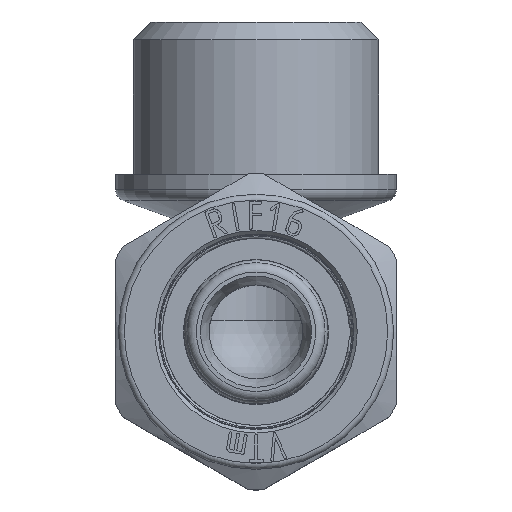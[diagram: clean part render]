
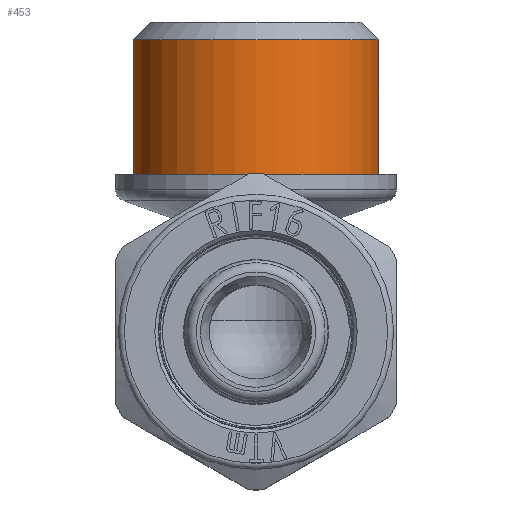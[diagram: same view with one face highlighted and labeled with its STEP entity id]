
A CAD part, top view. The second image highlights one B-rep face of the part: STEP entity #453.
In plain terms, the highlighted cylindrical face has radius 10.477 mm (diameter 20.955 mm), a full revolution.
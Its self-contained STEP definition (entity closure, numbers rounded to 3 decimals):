
#453=ADVANCED_FACE('',(#3206,#3208),#3210,.T.);
#3206=FACE_OUTER_BOUND('',#3207,.T.);
#3207=EDGE_LOOP('',(#6289));
#3208=FACE_OUTER_BOUND('',#3209,.T.);
#3209=EDGE_LOOP('',(#6290));
#3210=CYLINDRICAL_SURFACE('',#3211,10.478);
#3211=AXIS2_PLACEMENT_3D('',#3212,#3213,#3214);
#3212=CARTESIAN_POINT('',(0.,13.5,0.));
#3213=DIRECTION('',(0.,1.,0.));
#3214=DIRECTION('',(-1.,0.,0.));
#6289=ORIENTED_EDGE('',*,*,#7570,.F.);
#6290=ORIENTED_EDGE('',*,*,#7568,.F.);
#7568=EDGE_CURVE('',#9442,#9442,#9443,.F.);
#7570=EDGE_CURVE('',#9446,#9446,#9447,.T.);
#9442=VERTEX_POINT('',#14654);
#9443=CIRCLE('',#14655,10.478);
#9446=VERTEX_POINT('',#14664);
#9447=CIRCLE('',#14665,10.478);
#14654=CARTESIAN_POINT('',(-10.478,13.5,0.));
#14655=AXIS2_PLACEMENT_3D('',#14656,#14657,#14658);
#14656=CARTESIAN_POINT('',(0.,13.5,0.));
#14657=DIRECTION('',(0.,1.,0.));
#14658=DIRECTION('',(-1.,0.,0.));
#14664=CARTESIAN_POINT('',(-10.478,25.,0.));
#14665=AXIS2_PLACEMENT_3D('',#14666,#14667,#14668);
#14666=CARTESIAN_POINT('',(0.,25.,0.));
#14667=DIRECTION('',(0.,1.,0.));
#14668=DIRECTION('',(-1.,0.,0.));
